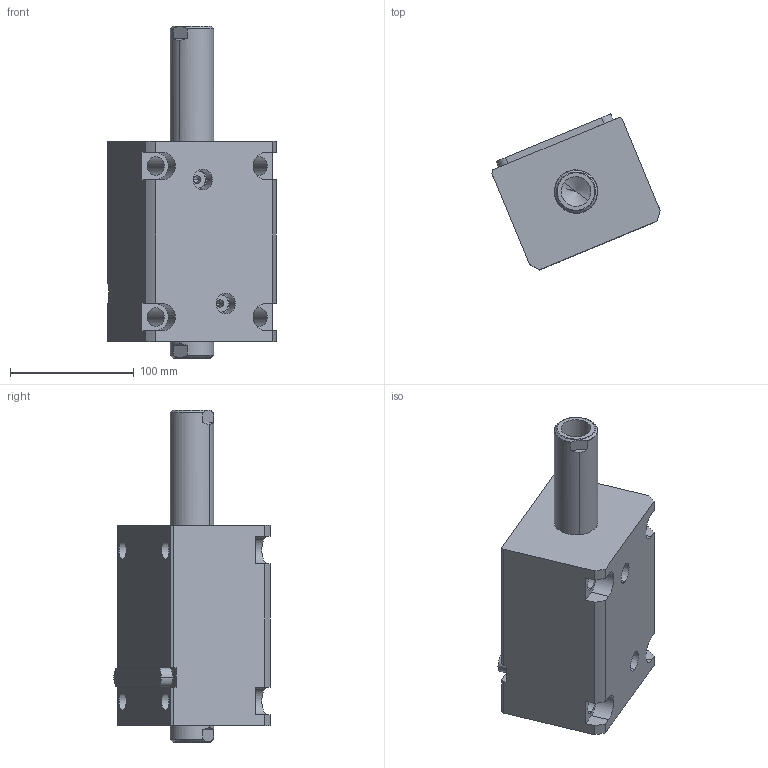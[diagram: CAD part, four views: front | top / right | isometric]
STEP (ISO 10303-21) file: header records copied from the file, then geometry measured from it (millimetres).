
FILE_DESCRIPTION (( 'STEP AP214' ), '1' );
FILE_NAME ('chtb-lw63x80n_asm.STEP', '2018-05-03T06:44:51', ( 'Windows' ), ( 'Microsoft' ), 'SwSTEP 2.0', 'SolidWorks 2015', '' );
FILE_SCHEMA (( 'AUTOMOTIVE_DESIGN' ));
Length unit declared in the file: millimetre
Products named in the file (5): CHTB-LA63PJ; CHTB-SW63X80NHSG; CHTB-LW63X80NBT; CHTB-63QG; chtb-lw63x80n_asm
Assembly tree (4 placements, depth 2):
  chtb-lw63x80n_asm
    CHTB-63QG
    CHTB-LW63X80NBT
    CHTB-SW63X80NHSG
    CHTB-LA63PJ
Bounding box: 135.77 x 126.06 x 268 mm (x, y, z)
Volume: 1470637.9 mm3; surface area: 195805.6 mm2
Topology: 4 solids, 4 shells, 194 faces, 563 edges, 381 vertices
Faces by surface type: cylinder 104, plane 50, cone 16, bspline 12, torus 12
Entity records: 18887 total; most frequent: CARTESIAN_POINT 13868, ORIENTED_EDGE 1110, DIRECTION 876, EDGE_CURVE 555, VERTEX_POINT 381, AXIS2_PLACEMENT_3D 336, EDGE_LOOP 222, LINE 204
